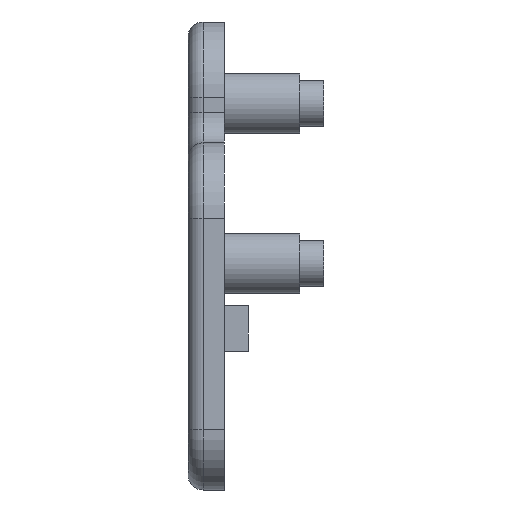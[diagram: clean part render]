
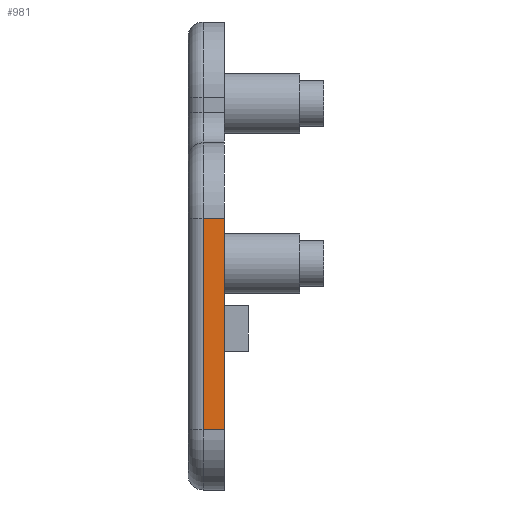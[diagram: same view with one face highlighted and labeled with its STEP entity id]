
A CAD part, left-side view. The second image highlights one B-rep face of the part: STEP entity #981.
In plain terms, the highlighted planar face has unit normal (-1, 0, 0).
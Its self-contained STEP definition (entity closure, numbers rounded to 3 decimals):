
#11 = EDGE_CURVE ( 'NONE', #1161, #1130, #1575, .T. ) ;
#14 = EDGE_CURVE ( 'NONE', #1160, #1161, #1584, .T. ) ;
#22 = EDGE_CURVE ( 'NONE', #1134, #1160, #1608, .T. ) ;
#62 = EDGE_CURVE ( 'NONE', #1130, #1134, #1695, .T. ) ;
#180 = FACE_OUTER_BOUND ( 'NONE', #1035, .T. ) ;
#184 = AXIS2_PLACEMENT_3D ( 'NONE', #531, #532, #533 ) ;
#530 = PLANE ( 'NONE',  #184 ) ;
#531 = CARTESIAN_POINT ( 'NONE',  ( -35.5, 1.2, 7.75 ) ) ;
#532 = DIRECTION ( 'NONE',  ( 1., 0., 0. ) ) ;
#533 = DIRECTION ( 'NONE',  ( 0., 0., -1. ) ) ;
#645 = CARTESIAN_POINT ( 'NONE',  ( -35.5, 0., -5.75 ) ) ;
#649 = CARTESIAN_POINT ( 'NONE',  ( -35.5, 0., 1.25 ) ) ;
#675 = CARTESIAN_POINT ( 'NONE',  ( -35.5, 0.7, 1.25 ) ) ;
#676 = CARTESIAN_POINT ( 'NONE',  ( -35.5, 0.7, -5.75 ) ) ;
#981 = ADVANCED_FACE ( 'NONE', ( #180 ), #530, .F. ) ;
#1035 = EDGE_LOOP ( 'NONE', ( #1463, #1465, #1466, #1467 ) ) ;
#1130 = VERTEX_POINT ( 'NONE', #645 ) ;
#1134 = VERTEX_POINT ( 'NONE', #649 ) ;
#1160 = VERTEX_POINT ( 'NONE', #675 ) ;
#1161 = VERTEX_POINT ( 'NONE', #676 ) ;
#1463 = ORIENTED_EDGE ( 'NONE', *, *, #22, .T. ) ;
#1465 = ORIENTED_EDGE ( 'NONE', *, *, #14, .T. ) ;
#1466 = ORIENTED_EDGE ( 'NONE', *, *, #11, .T. ) ;
#1467 = ORIENTED_EDGE ( 'NONE', *, *, #62, .T. ) ;
#1575 = LINE ( 'NONE', #1576, #1921 ) ;
#1576 = CARTESIAN_POINT ( 'NONE',  ( -35.5, 1.2, -5.75 ) ) ;
#1577 = DIRECTION ( 'NONE',  ( 0., -1., 0. ) ) ;
#1584 = LINE ( 'NONE', #1585, #1953 ) ;
#1585 = CARTESIAN_POINT ( 'NONE',  ( -35.5, 0.7, 7.75 ) ) ;
#1586 = DIRECTION ( 'NONE',  ( 0., 0., -1. ) ) ;
#1608 = LINE ( 'NONE', #1609, #1957 ) ;
#1609 = CARTESIAN_POINT ( 'NONE',  ( -35.5, 1.2, 1.25 ) ) ;
#1610 = DIRECTION ( 'NONE',  ( 0., 1., 0. ) ) ;
#1695 = LINE ( 'NONE', #1696, #1907 ) ;
#1696 = CARTESIAN_POINT ( 'NONE',  ( -35.5, 0., 7.75 ) ) ;
#1697 = DIRECTION ( 'NONE',  ( 0., 0., 1. ) ) ;
#1907 = VECTOR ( 'NONE', #1697, 1000. ) ;
#1921 = VECTOR ( 'NONE', #1577, 1000. ) ;
#1953 = VECTOR ( 'NONE', #1586, 1000. ) ;
#1957 = VECTOR ( 'NONE', #1610, 1000. ) ;
